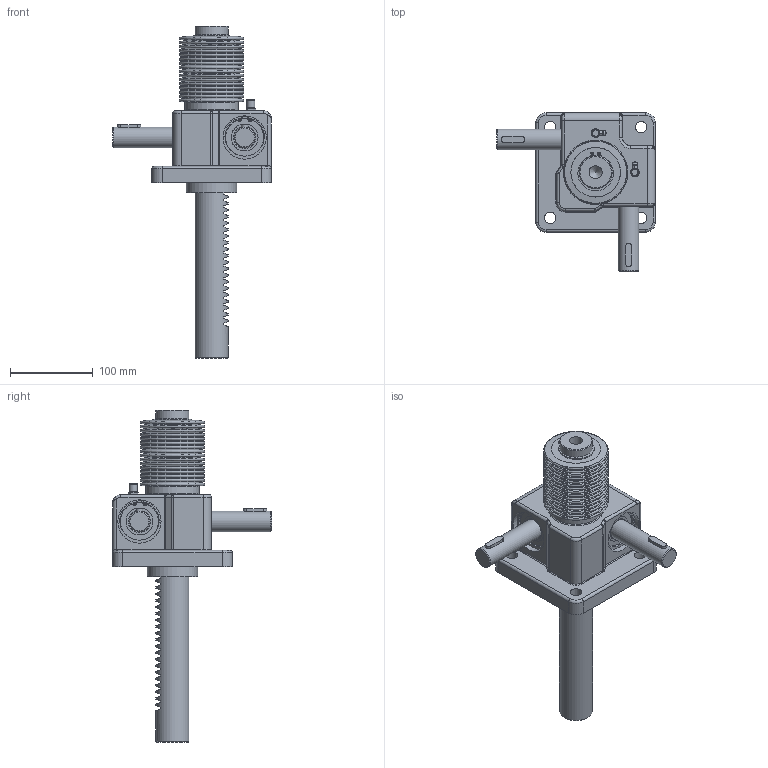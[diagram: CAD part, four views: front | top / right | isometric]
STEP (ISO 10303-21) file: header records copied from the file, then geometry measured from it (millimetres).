
FILE_DESCRIPTION(('STEP AP203'),'1');
FILE_NAME('SP1-3000CJ-200ST.stp','2016-08-18T01:51:00',(' '),(' '),'Spatial InterOp 3D',' ',' ');
FILE_SCHEMA(('CONFIG_CONTROL_DESIGN'));
Length unit declared in the file: millimetre
Products named in the file (25): SP1-3000CJ-200ST; SnapRing-38Pie; Rack Gear(SP-3000); Bellow(SP-3000); Body-Part; Nipple; Key; Shaft; SnapRing-58Pie; 6205zz; SnapRing-55Pie; Du Bush; Gear Box(NSP-3000); RJ05-4SCJ-610X600-100ST_CAP; LABEL-B.1; ___; 파트18; __
Assembly tree (24 placements, depth 6):
  SP1-3000CJ-200ST
    SnapRing-38Pie
    Rack Gear(SP-3000)
    Bellow(SP-3000)
    Body-Part
      Nipple
      Nipple
      Key
      Key
      Shaft
      Shaft
      SnapRing-58Pie
      SnapRing-58Pie
      6205zz
      6205zz
      SnapRing-55Pie
      SnapRing-55Pie
      Du Bush
      Du Bush
      Gear Box(NSP-3000)
      __
        ___
          RJ05-4SCJ-610X600-100ST_CAP
            LABEL-B.1
          파트18
Bounding box: 192.5 x 192.72 x 402 mm (x, y, z)
Volume: 1430605.2 mm3; surface area: 456669.5 mm2
Topology: 27 solids, 27 shells, 2710 faces, 7366 edges, 4757 vertices
Faces by surface type: plane 2168, cylinder 284, cone 104, torus 80, sphere 50, bspline 16, revolution 8
Full cylindrical faces by diameter (mm): 2.53 x2, 3.087 x4, 3.257 x4, 5.6 x2, 6 x2, 9.886 x2, 14 x4, 16 x1, 19 x2, 25 x4, 28 x2, 32.5 x4, 38 x1, 40 x20, 45 x1, 46.1 x4, 50 x4, 52 x4, 52.4 x2, 55 x4, 58 x2, 61 x1, 65 x2
Entity records: 85501 total; most frequent: CARTESIAN_POINT 17616, ORIENTED_EDGE 13860, DIRECTION 13083, EDGE_CURVE 6930, LINE 5845, VECTOR 5845, VERTEX_POINT 4640, AXIS2_PLACEMENT_3D 3615
